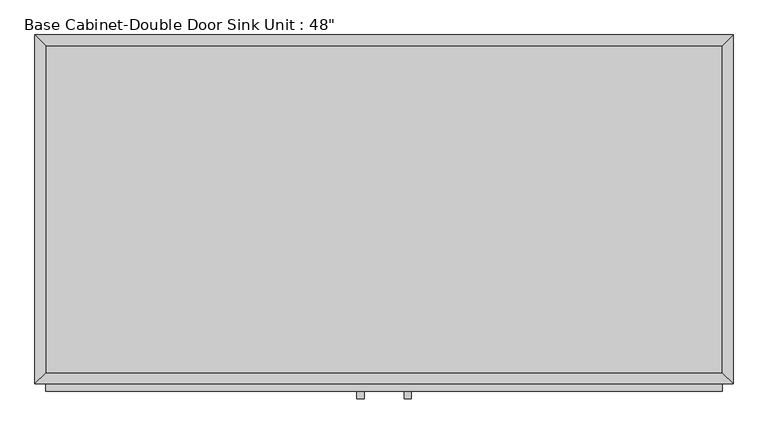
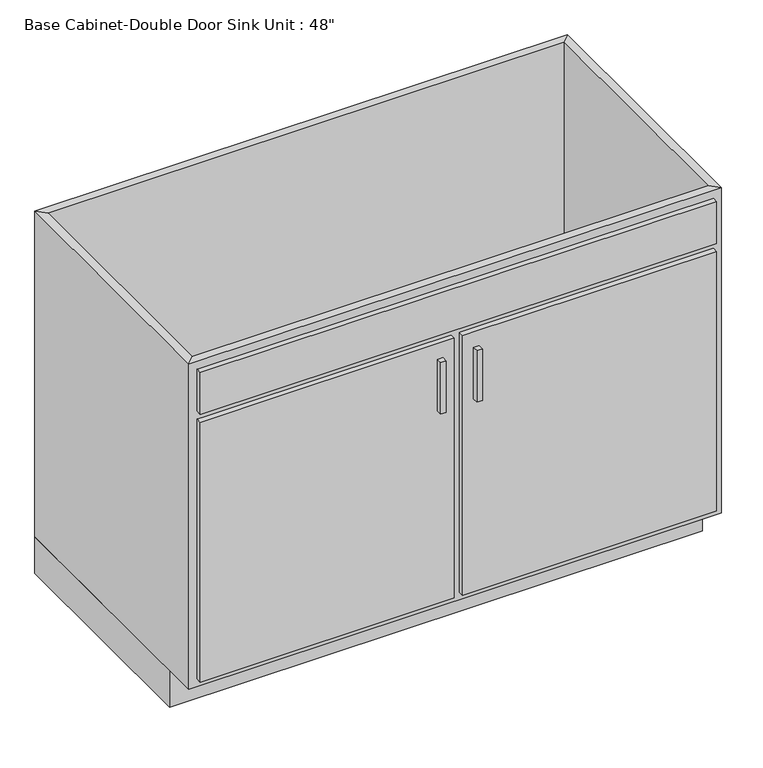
"""IFC4 building model written with IfcOpenShell, lengths in millimetres: furniture geometry."""

from ifc_helpers import new_model, si_unit, frame, origin, origin_with_axes, place, context, project, spatial, polyline, outline, extrude, faceted_brep, source, transform, mapped, element, save


def furniture_94963ca6(model_context):
    return source(origin(), model_context, "Body", "SolidModel", [
        extrude(outline(polyline([(-16.1872951, -635.0), (-28.8872951, -635.0), (-28.8872951, -622.3), (-16.1872951, -622.3), (-16.1872951, -635.0)])), frame((0.0, 0.0, 573.769895), z_axis=(0.0, 0.0, 1.0), x_axis=(1.0, 0.0, 0.0)), (0.0, 0.0, 1.0), 124.730105),
        extrude(outline(polyline([(66.3627049, -635.0), (53.6627049, -635.0), (53.6627049, -622.3), (66.3627049, -622.3), (66.3627049, -635.0)])), frame((0.0, 0.0, 573.769895), z_axis=(0.0, 0.0, 1.0), x_axis=(1.0, 0.0, 0.0)), (0.0, 0.0, 1.0), 124.730105),
        extrude(outline(polyline([(609.2877049, -19.05), (609.2877049, -590.55), (-571.8122951, -590.55), (-571.8122951, -19.05), (609.2877049, -19.05)])), frame((0.0, 0.0, 88.9), z_axis=(0.0, 0.0, 1.0), x_axis=(1.0, 0.0, 0.0)), (0.0, 0.0, 1.0), 19.05),
        faceted_brep([(609.2877049, -590.55, 876.3), (609.2877049, -590.55, 88.9), (-571.8122951, -590.55, 88.9), (-571.8122951, -590.55, 876.3), (628.3377049, -609.6, 876.3), (-590.8622951, -609.6, 876.3), (628.3377049, -609.6, 88.9), (-590.8622951, -609.6, 88.9), (-571.8122951, -19.05, 88.9), (-571.8122951, -19.05, 876.3), (-590.8622951, 0.0, 876.3), (-590.8622951, 0.0, 88.9), (609.2877049, -19.05, 88.9), (609.2877049, -19.05, 876.3), (628.3377049, 0.0, 876.3), (628.3377049, 0.0, 88.9)], [[[0, 1, 2, 3]], [[4, 0, 3, 5]], [[6, 4, 5, 7]], [[1, 6, 7, 2]], [[3, 2, 8, 9]], [[5, 3, 9, 10]], [[7, 5, 10, 11]], [[2, 7, 11, 8]], [[9, 8, 12, 13]], [[10, 9, 13, 14]], [[11, 10, 14, 15]], [[8, 11, 15, 12]], [[13, 12, 1, 0]], [[14, 13, 0, 4]], [[15, 14, 4, 6]], [[12, 15, 6, 1]]]),
        extrude(outline(polyline([(628.3377049, 0.0), (628.3377049, -533.4), (-590.8622951, -533.4), (-590.8622951, 0.0), (628.3377049, 0.0)])), origin_with_axes(), (0.0, 0.0, 1.0), 88.9),
        extrude(outline(polyline([(9.2127049, -622.3), (-571.8122951, -622.3), (-571.8122951, -609.6), (9.2127049, -609.6), (9.2127049, -622.3)])), frame((0.0, 0.0, 107.95), z_axis=(0.0, 0.0, 1.0), x_axis=(1.0, 0.0, 0.0)), (0.0, 0.0, 1.0), 628.65),
        extrude(outline(polyline([(609.2877049, -622.3), (28.2627049, -622.3), (28.2627049, -609.6), (609.2877049, -609.6), (609.2877049, -622.3)])), frame((0.0, 0.0, 107.95), z_axis=(0.0, 0.0, 1.0), x_axis=(1.0, 0.0, 0.0)), (0.0, 0.0, 1.0), 628.65),
        extrude(outline(polyline([(609.2877049, -622.3), (-571.8122951, -622.3), (-571.8122951, -609.6), (609.2877049, -609.6), (609.2877049, -622.3)])), frame((0.0, 0.0, 755.65), z_axis=(0.0, 0.0, 1.0), x_axis=(1.0, 0.0, 0.0)), (0.0, 0.0, 1.0), 101.6),
    ])


if __name__ == "__main__":
    model = new_model("IFC4")
    model_context = context("Model", 3, world=origin())
    ifc_project = project(units=[si_unit("LENGTHUNIT", "METRE", prefix="MILLI")], contexts=[model_context])
    site = spatial("IfcSite", under=ifc_project)
    building = spatial("IfcBuilding", under=site)
    placement = place(None, origin())
    furniture_shape = furniture_94963ca6(model_context)
    element("IfcFurniture", 1, ObjectType="Base Cabinet-Double Door Sink Unit : 48\"", at=placement, inside=building, context=model_context, shape_type="MappedRepresentation", body=[
        mapped(furniture_shape, transform((0.0, 0.0, 0.0), x_axis=(1.0, 0.0, 0.0), y_axis=(0.0, 1.0, 0.0), z_axis=(0.0, 0.0, 1.0))),
    ])
    save(model, "model.ifc")
